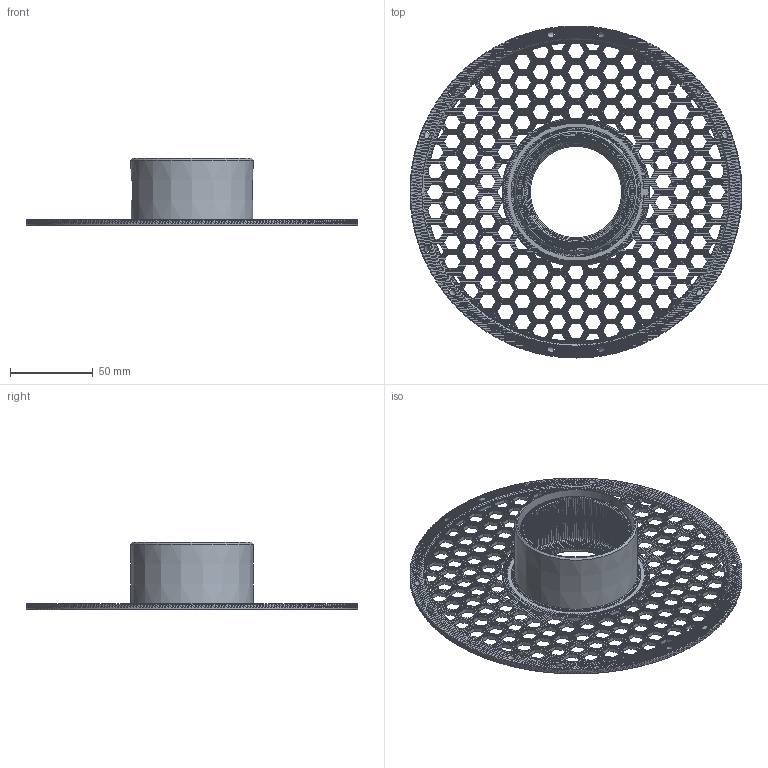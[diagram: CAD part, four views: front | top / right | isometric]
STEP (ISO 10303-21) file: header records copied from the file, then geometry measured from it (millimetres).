
FILE_DESCRIPTION(/* description */ (''),/* implementation_level */ '2;1');
FILE_NAME(/* name */ 'bambulab_spool_wide_modded_v2_different_core_diameter.step',/* time_stamp */ '2023-09-21T18:13:22+02:00',/* author */ (''),/* organization */ (''),/* preprocessor_version */ 'ST-DEVELOPER v20',/* originating_system */ 'Autodesk Translation Framework v12.14.0.127',/* authorisation */ '');
FILE_SCHEMA (('AUTOMOTIVE_DESIGN { 1 0 10303 214 3 1 1 }'));
Length unit declared in the file: millimetre
Products named in the file (1): bambulab_spool_wide_mod_different_core_diameter
Bounding box: 200 x 200 x 40.7 mm (x, y, z)
Volume: 84311.4 mm3; surface area: 84102.3 mm2
Topology: 1 solids, 1 shells, 21031 faces, 44993 edges, 23579 vertices
Faces by surface type: plane 20944, cylinder 84, cone 3
Full cylindrical faces by diameter (mm): 3.5 x12, 70.31 x1
Entity records: 533978 total; most frequent: ORIENTED_EDGE 90170, DIRECTION 89895, CARTESIAN_POINT 89788, EDGE_CURVE 45085, LINE 42339, VECTOR 42339, AXIS2_PLACEMENT_3D 23778, VERTEX_POINT 23671
